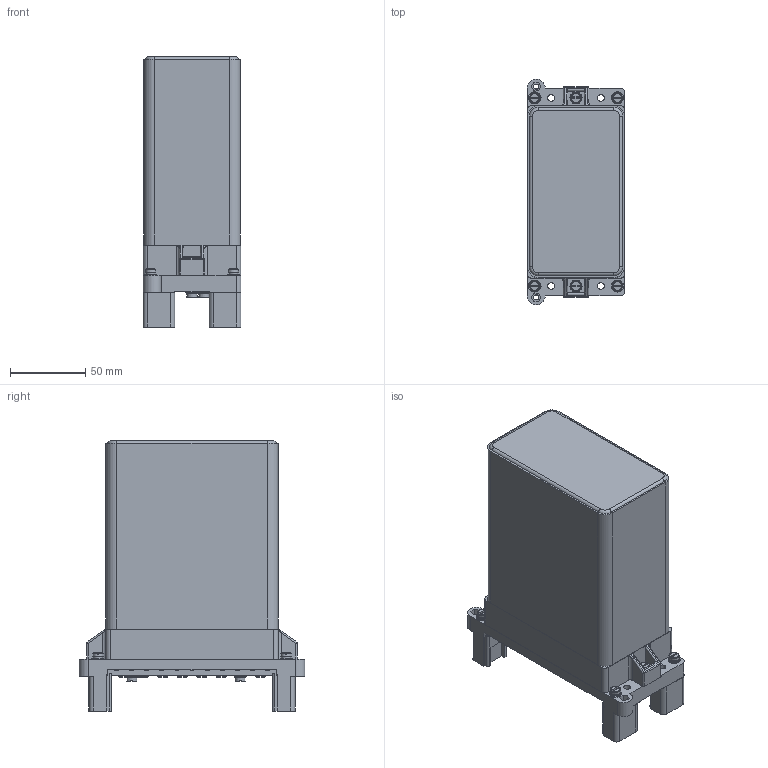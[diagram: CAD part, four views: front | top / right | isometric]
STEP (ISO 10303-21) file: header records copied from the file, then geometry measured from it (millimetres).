
FILE_DESCRIPTION(('STEP AP214'), '1');
FILE_NAME('ÁÊÆÈ.647649.005 - ÐÑÒ11Ì ç.ï', '', ('UNSPECIFIED'), ('UNSPECIFIED'), 'ASCON STEP Converter 1.3', 'ASCON Math Kernel', '');
FILE_SCHEMA(('AUTOMOTIVE_DESIGN { 1 0 10303 214 3 1 1}'));
Length unit declared in the file: millimetre
Products named in the file (1): 購つ.647649.005
Bounding box: 65 x 150 x 179.5 mm (x, y, z)
Volume: 1154698.8 mm3; surface area: 110910.5 mm2
Topology: 1 solids, 1 shells, 4599 faces, 11195 edges, 6782 vertices
Faces by surface type: plane 3727, cylinder 780, torus 52, cone 28, bspline 12
Full cylindrical faces by diameter (mm): 3.5 x2, 4 x22, 4.3 x6, 4.5 x32, 5 x2, 7.5 x2, 8 x8
Entity records: 172014 total; most frequent: CARTESIAN_POINT 27919, ORIENTED_EDGE 22138, DIRECTION 21735, EDGE_CURVE 11069, LINE 9011, VECTOR 9011, VERTEX_POINT 6782, AXIS2_PLACEMENT_3D 6362
